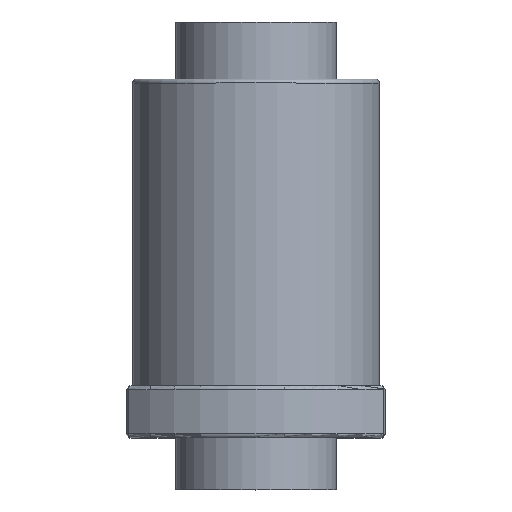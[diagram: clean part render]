
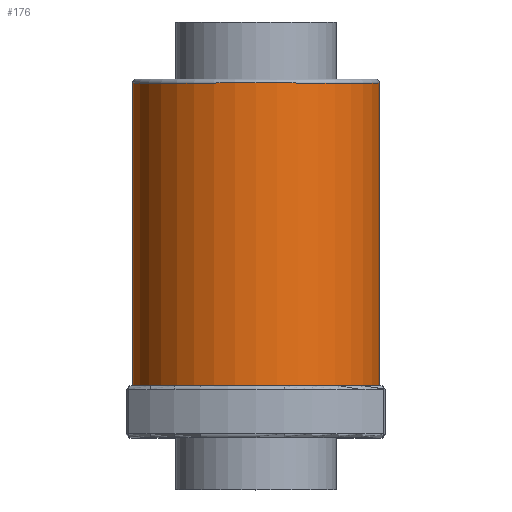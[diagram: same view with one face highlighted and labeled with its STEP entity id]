
A CAD part, top view. The second image highlights one B-rep face of the part: STEP entity #176.
In plain terms, the highlighted cylindrical face has radius 47.5 mm (diameter 95 mm), a full revolution.
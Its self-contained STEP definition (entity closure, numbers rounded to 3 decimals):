
#176=ADVANCED_FACE('',(#264,#265),#229,.T.);
#229=CYLINDRICAL_SURFACE('',#905,47.5);
#264=FACE_BOUND('',#362,.T.);
#265=FACE_BOUND('',#363,.T.);
#362=EDGE_LOOP('',(#486));
#363=EDGE_LOOP('',(#487));
#486=ORIENTED_EDGE('',*,*,#753,.T.);
#487=ORIENTED_EDGE('',*,*,#725,.F.);
#646=VERTEX_POINT('',#1253);
#674=VERTEX_POINT('',#1314);
#725=EDGE_CURVE('',#646,#646,#820,.T.);
#753=EDGE_CURVE('',#674,#674,#840,.T.);
#820=CIRCLE('',#879,47.5);
#840=CIRCLE('',#904,47.5);
#879=AXIS2_PLACEMENT_3D('',#1252,#1006,#1007);
#904=AXIS2_PLACEMENT_3D('',#1313,#1064,#1065);
#905=AXIS2_PLACEMENT_3D('',#1315,#1066,#1067);
#1006=DIRECTION('',(0.,-1.,0.));
#1007=DIRECTION('',(0.,0.,-1.));
#1064=DIRECTION('',(0.,-1.,0.));
#1065=DIRECTION('',(0.,0.,-1.));
#1066=DIRECTION('',(0.,-1.,0.));
#1067=DIRECTION('',(0.,0.,-1.));
#1252=CARTESIAN_POINT('',(0.,20.,0.));
#1253=CARTESIAN_POINT('',(0.,20.,-47.5));
#1313=CARTESIAN_POINT('',(0.,136.5,0.));
#1314=CARTESIAN_POINT('',(0.,136.5,-47.5));
#1315=CARTESIAN_POINT('',(0.,138.,0.));
